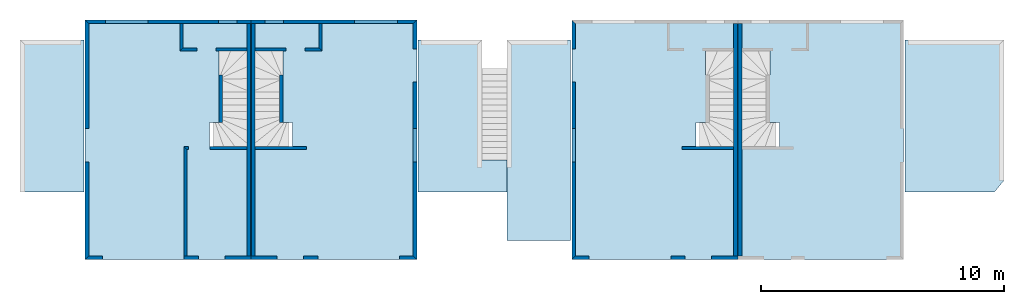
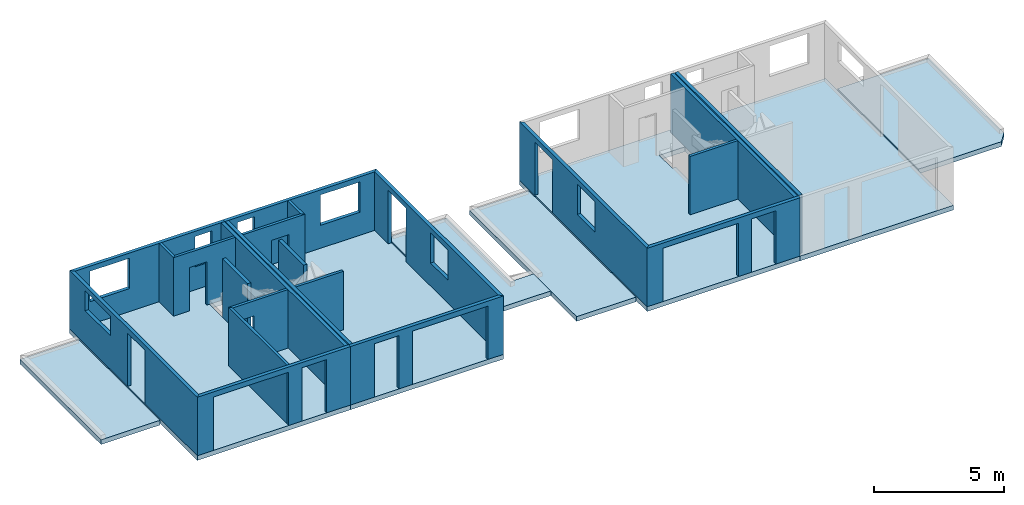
# One storey, part 1 of 8: 22 walls, 8 slabs, 23 openings.
"""IFC2X3 building model written with IfcOpenShell, lengths in metres."""

from ifc_helpers import new_model, entity, si_unit, converted_unit, money_unit, direction, frame, origin_with_axes, origin_2d_with_axis, place, context, subcontext, project, spatial, polyline, rectangle, outline, extrude, material, layer, layer_set, layer_usage, type_object, element, save


model = new_model("IFC2X3")

# Units and contexts
model_context = context("Model", 3, precision=1e-05, world=origin_with_axes(), true_north=direction((0.0, 1.0)))
body_context = subcontext(model_context, "Body", "Model", "MODEL_VIEW")
ifc_project = project(units=[si_unit("LENGTHUNIT", "METRE"), si_unit("AREAUNIT", "SQUARE_METRE"), si_unit("VOLUMEUNIT", "CUBIC_METRE"), converted_unit("PLANEANGLEUNIT", "DEGREE", entity("IfcPlaneAngleMeasure", 0.0174532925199), si_unit("PLANEANGLEUNIT", "RADIAN"), dimensions=[0, 0, 0, 0, 0, 0, 0]), si_unit("SOLIDANGLEUNIT", "STERADIAN"), money_unit("EUR"), si_unit("TIMEUNIT", "SECOND"), si_unit("MASSUNIT", "GRAM"), si_unit("THERMODYNAMICTEMPERATUREUNIT", "DEGREE_CELSIUS"), si_unit("LUMINOUSINTENSITYUNIT", "LUMEN")], contexts=[model_context])

# Site, building, storey
site_placement = place(None, origin_with_axes())
site = spatial("IfcSite", under=ifc_project, at=site_placement, Name="Gelände", CompositionType="ELEMENT")
building_placement = place(site_placement, origin_with_axes())
building = spatial("IfcBuilding", under=site, at=building_placement, Name="Gebäude", CompositionType="ELEMENT")
storey_placement = place(building_placement, origin_with_axes())
storey = spatial("IfcBuildingStorey", under=building, at=storey_placement, Name="Erdgeschoss", CompositionType="ELEMENT", Elevation=0.0)

# Slab, opening
ifc_material_1 = material(Name="Beton, Stahlbeton")
ifc_layer_1 = layer(ifc_material_1, 0.22, ventilated="UNKNOWN")
ifc_layer_set_1 = layer_set([ifc_layer_1], Name="Beton, Stahlbeton 0.22")
ifc_layer_usage_1 = layer_usage(ifc_layer_set_1, "AXIS3", "NEGATIVE", 0.22)
slab_type = type_object("IfcSlabType", Name="Beton, Stahlbeton 220", PredefinedType="FLOOR")
slab_1_placement = place(storey_placement, frame((5.5340174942, 2.25779407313, 0.0), z_axis=(0.0, 0.0, 1.0), x_axis=(1.0, 0.0, 0.0)))
slab_1 = element("IfcSlab", 1, at=slab_1_placement, inside=storey, type_object=slab_type, material=ifc_layer_usage_1, Name="Bodenplatte A", PredefinedType="FLOOR", context=body_context, shape_type="SweptSolid", body=[
    extrude(outline(polyline([(0.0, 0.0), (0.0, -9.8500000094), (6.82000011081, -9.8500000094), (6.82000011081, 0.0), (0.0, 0.0)])), frame((0.0, 0.0, -0.22), z_axis=(0.0, 0.0, 1.0), x_axis=(1.0, 0.0, 0.0)), (0.0, 0.0, 1.0), 0.22),
])
opening_1_placement = place(slab_1_placement, origin_with_axes())
element("IfcOpeningElement", 2, at=opening_1_placement, cuts=slab_1, Name="Slab Opening", context=body_context, shape_type="SweptSolid", body=[
    extrude(outline(polyline([(6.64593905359, -1.2700000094), (5.50000005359, -1.2700000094), (5.50000005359, -2.2700000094), (5.64947005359, -2.2700000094), (5.64947005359, -4.2100000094), (5.11079605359, -4.2100000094), (5.11079605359, -5.2100000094), (6.65000005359, -5.2100000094), (6.64593905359, -1.2700000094)])), frame((0.0, 0.0, -0.22), z_axis=(0.0, 0.0, 1.0), x_axis=(1.0, 0.0, 0.0)), (0.0, 0.0, 1.0), 0.22),
])

# Slab
ifc_layer_usage_2 = layer_usage(ifc_layer_set_1, "AXIS3", "NEGATIVE", 0.22)
slab_2_placement = place(storey_placement, frame((5.4840174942, -4.81220592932, 0.0), z_axis=(0.0, 0.0, 1.0), x_axis=(1.0, 0.0, 0.0)))
element("IfcSlab", 3, at=slab_2_placement, inside=storey, type_object=slab_type, material=ifc_layer_usage_2, Name="Bodenplatte A", PredefinedType="FLOOR", context=body_context, shape_type="SweptSolid", body=[
    extrude(outline(polyline([(0.0, 0.0), (0.0, 6.24999998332), (-2.62996168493, 6.24999998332), (-2.62996168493, 9.73579199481e-08), (0.0, 0.0)])), frame((0.0, 0.0, -0.22), z_axis=(0.0, 0.0, 1.0), x_axis=(1.0, 0.0, 0.0)), (0.0, 0.0, 1.0), 0.22),
])

# Slab, opening
ifc_layer_usage_3 = layer_usage(ifc_layer_set_1, "AXIS3", "NEGATIVE", 0.22)
slab_3_placement = place(storey_placement, frame((19.1740176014, 2.25779407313, 0.0), z_axis=(0.0, 0.0, 1.0), x_axis=(1.0, 0.0, 0.0)))
slab_3 = element("IfcSlab", 4, at=slab_3_placement, inside=storey, type_object=slab_type, material=ifc_layer_usage_3, Name="Bodenplatte B", PredefinedType="FLOOR", context=body_context, shape_type="SweptSolid", body=[
    extrude(outline(polyline([(0.0, 0.0), (-6.82000011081, 0.0), (-6.82000011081, -9.8500000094), (0.0, -9.8500000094), (0.0, 0.0)])), frame((0.0, 0.0, -0.22), z_axis=(0.0, 0.0, 1.0), x_axis=(1.0, 0.0, 0.0)), (0.0, 0.0, 1.0), 0.22),
])
opening_2_placement = place(slab_3_placement, origin_with_axes())
element("IfcOpeningElement", 5, at=opening_2_placement, cuts=slab_3, Name="Slab Opening", context=body_context, shape_type="SweptSolid", body=[
    extrude(outline(polyline([(-6.64593905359, -1.2700000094), (-6.65000005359, -5.2100000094), (-5.11079605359, -5.2100000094), (-5.11079605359, -4.2100000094), (-5.64947005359, -4.2100000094), (-5.64947005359, -2.2700000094), (-5.50000005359, -2.2700000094), (-5.50000005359, -1.2700000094), (-6.64593905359, -1.2700000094)])), frame((0.0, 0.0, -0.22), z_axis=(0.0, 0.0, 1.0), x_axis=(1.0, 0.0, 0.0)), (0.0, 0.0, 1.0), 0.22),
])

# Slab
ifc_layer_usage_4 = layer_usage(ifc_layer_set_1, "AXIS3", "NEGATIVE", 0.22)
slab_4_placement = place(storey_placement, frame((19.2240176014, 1.437794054, 0.0), z_axis=(0.0, 0.0, 1.0), x_axis=(1.0, 0.0, 0.0)))
element("IfcSlab", 6, at=slab_4_placement, inside=storey, type_object=slab_type, material=ifc_layer_usage_4, Name="Bodenplatte B", PredefinedType="FLOOR", context=body_context, shape_type="SweptSolid", body=[
    extrude(outline(polyline([(0.0, 0.0), (0.0, -6.24999998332), (3.64996169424, -6.24999989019), (3.64996169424, -4.930000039), (2.62996171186, -4.930000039), (2.62996171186, 0.0), (0.0, 0.0)])), frame((0.0, 0.0, -0.22), z_axis=(0.0, 0.0, 1.0), x_axis=(1.0, 0.0, 0.0)), (0.0, 0.0, 1.0), 0.22),
])

# Slab, opening
ifc_layer_usage_5 = layer_usage(ifc_layer_set_1, "AXIS3", "NEGATIVE", 0.22)
slab_5_placement = place(storey_placement, frame((39.1939410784, 2.25779407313, 0.0), z_axis=(0.0, 0.0, 1.0), x_axis=(1.0, 0.0, 0.0)))
slab_5 = element("IfcSlab", 7, at=slab_5_placement, inside=storey, type_object=slab_type, material=ifc_layer_usage_5, Name="Bodenplatte D", PredefinedType="FLOOR", context=body_context, shape_type="SweptSolid", body=[
    extrude(outline(polyline([(0.0, 0.0), (-6.82000011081, 0.0), (-6.82000011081, -9.8500000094), (0.0, -9.8500000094), (0.0, 0.0)])), frame((0.0, 0.0, -0.22), z_axis=(0.0, 0.0, 1.0), x_axis=(1.0, 0.0, 0.0)), (0.0, 0.0, 1.0), 0.22),
])
opening_3_placement = place(slab_5_placement, origin_with_axes())
element("IfcOpeningElement", 8, at=opening_3_placement, cuts=slab_5, Name="Slab Opening", context=body_context, shape_type="SweptSolid", body=[
    extrude(outline(polyline([(-6.64593905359, -1.2700000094), (-6.65000005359, -5.2100000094), (-5.11079605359, -5.2100000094), (-5.11079605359, -4.2100000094), (-5.64947005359, -4.2100000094), (-5.64947005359, -2.2700000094), (-5.50000005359, -2.2700000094), (-5.50000005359, -1.2700000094), (-6.64593905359, -1.2700000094)])), frame((0.0, 0.0, -0.22), z_axis=(0.0, 0.0, 1.0), x_axis=(1.0, 0.0, 0.0)), (0.0, 0.0, 1.0), 0.22),
])

# Slab
ifc_layer_usage_6 = layer_usage(ifc_layer_set_1, "AXIS3", "NEGATIVE", 0.22)
slab_6_placement = place(storey_placement, frame((39.2439410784, -4.81220588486, 0.0), z_axis=(0.0, 0.0, 1.0), x_axis=(1.0, 0.0, 0.0)))
element("IfcSlab", 9, at=slab_6_placement, inside=storey, type_object=slab_type, material=ifc_layer_usage_6, Name="Bodenplatte D", PredefinedType="FLOOR", context=body_context, shape_type="SweptSolid", body=[
    extrude(outline(polyline([(0.0, 0.0), (3.68996168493, 1.36597805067e-07), (4.07996168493, 0.475166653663), (4.07996168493, 6.2499999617), (-2.07094785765e-09, 6.24999991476), (0.0, 0.0)])), frame((0.0, 0.0, -0.22), z_axis=(0.0, 0.0, 1.0), x_axis=(1.0, 0.0, 0.0)), (0.0, 0.0, 1.0), 0.22),
])

# Slab, opening
ifc_layer_usage_7 = layer_usage(ifc_layer_set_1, "AXIS3", "NEGATIVE", 0.22)
slab_7_placement = place(storey_placement, frame((25.5539409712, 2.25779407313, 0.0), z_axis=(0.0, 0.0, 1.0), x_axis=(1.0, 0.0, 0.0)))
slab_7 = element("IfcSlab", 10, at=slab_7_placement, inside=storey, type_object=slab_type, material=ifc_layer_usage_7, Name="Decke C", PredefinedType="FLOOR", context=body_context, shape_type="SweptSolid", body=[
    extrude(outline(polyline([(0.0, 0.0), (0.0, -9.8500000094), (6.82000011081, -9.8500000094), (6.82000011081, 0.0), (0.0, 0.0)])), frame((0.0, 0.0, -0.22), z_axis=(0.0, 0.0, 1.0), x_axis=(1.0, 0.0, 0.0)), (0.0, 0.0, 1.0), 0.22),
])
opening_4_placement = place(slab_7_placement, origin_with_axes())
element("IfcOpeningElement", 11, at=opening_4_placement, cuts=slab_7, Name="Slab Opening", context=body_context, shape_type="SweptSolid", body=[
    extrude(outline(polyline([(6.64593905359, -1.2700000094), (5.50000005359, -1.2700000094), (5.50000005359, -2.2700000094), (5.64947005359, -2.2700000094), (5.64947005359, -4.2100000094), (5.11079605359, -4.2100000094), (5.11079605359, -5.2100000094), (6.65000005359, -5.2100000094), (6.64593905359, -1.2700000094)])), frame((0.0, 0.0, -0.22), z_axis=(0.0, 0.0, 1.0), x_axis=(1.0, 0.0, 0.0)), (0.0, 0.0, 1.0), 0.22),
])

# Slab
ifc_layer_usage_8 = layer_usage(ifc_layer_set_1, "AXIS3", "NEGATIVE", 0.22)
slab_8_placement = place(storey_placement, frame((25.5039409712, -6.81220600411, 0.0), z_axis=(0.0, 0.0, 1.0), x_axis=(1.0, 0.0, 0.0)))
element("IfcSlab", 12, at=slab_8_placement, inside=storey, type_object=slab_type, material=ifc_layer_usage_8, Name="Bodenplatte C", PredefinedType="FLOOR", context=body_context, shape_type="SweptSolid", body=[
    extrude(outline(polyline([(0.0, 0.0), (0.0, 8.25000005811), (-2.62996168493, 8.25000005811), (-2.62996168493, 9.73579199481e-08), (0.0, 0.0)])), frame((0.0, 0.0, -0.22), z_axis=(0.0, 0.0, 1.0), x_axis=(1.0, 0.0, 0.0)), (0.0, 0.0, 1.0), 0.22),
])

# Wall, openings
ifc_material_2 = material(Name="MW, Backstein")
ifc_layer_2 = layer(ifc_material_2, 0.15, ventilated="UNKNOWN")
ifc_layer_set_2 = layer_set([ifc_layer_2], Name="MW, Backstein 0.15")
ifc_layer_usage_9 = layer_usage(ifc_layer_set_2, "AXIS2", "NEGATIVE", 0.0)
wall_type_1 = type_object("IfcWallType", Name="MW, Backstein 150", PredefinedType="NOTDEFINED")
wall_1_placement = place(storey_placement, frame((12.3540175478, -7.59220593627, 0.0), z_axis=(0.0, 0.0, 1.0), x_axis=(-1.0, 0.0, 0.0)))
wall_1 = element("IfcWallStandardCase", 13, at=wall_1_placement, inside=storey, type_object=wall_type_1, material=ifc_layer_usage_9, Name="Aussenwand A", context=body_context, shape_type="SweptSolid", body=[
    extrude(outline(polyline([(0.0, -0.15), (6.67, -0.15), (6.82, 0.0), (0.0, 0.0), (0.0, -0.15)])), origin_with_axes(), (0.0, 0.0, 1.0), 2.75),
])
opening_5_placement = place(wall_1_placement, frame((4.43, 0.0, 0.0), z_axis=(0.0, 0.0, 1.0), x_axis=(1.0, 0.0, 0.0)))
element("IfcOpeningElement", 14, at=opening_5_placement, cuts=wall_1, Name="Fenster A", context=body_context, shape_type="SweptSolid", body=[
    extrude(rectangle(XDim=3.36, YDim=2.51, at=origin_2d_with_axis()), frame((0.0, -0.15, 1.255), z_axis=(0.0, -1.0, 0.0), x_axis=(1.0, 0.0, 0.0)), (0.0, 0.0, -1.0), 0.15),
    extrude(rectangle(XDim=3.36, YDim=2.51, at=origin_2d_with_axis()), frame((0.0, -0.15, 1.255), z_axis=(0.0, 1.0, 0.0), x_axis=(1.0, 0.0, 0.0)), (0.0, 0.0, -1.0), 0.15),
])
opening_6_placement = place(wall_1_placement, frame((1.61, 0.0, 0.0), z_axis=(0.0, 0.0, 1.0), x_axis=(1.0, 0.0, 0.0)))
element("IfcOpeningElement", 15, at=opening_6_placement, cuts=wall_1, Name="Fenster A", context=body_context, shape_type="SweptSolid", body=[
    extrude(rectangle(XDim=1.1, YDim=2.51, at=origin_2d_with_axis()), frame((0.0, -0.15, 1.255), z_axis=(0.0, -1.0, 0.0), x_axis=(1.0, 0.0, 0.0)), (0.0, 0.0, -1.0), 0.15),
    extrude(rectangle(XDim=1.1, YDim=2.51, at=origin_2d_with_axis()), frame((0.0, -0.15, 1.255), z_axis=(0.0, 1.0, 0.0), x_axis=(1.0, 0.0, 0.0)), (0.0, 0.0, -1.0), 0.15),
])

ifc_layer_usage_10 = layer_usage(ifc_layer_set_2, "AXIS2", "POSITIVE", 0.0)
wall_2_placement = place(storey_placement, frame((5.68401754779, -7.59220593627, 0.0), z_axis=(0.0, 0.0, 1.0), x_axis=(0.0, 1.0, 0.0)))
wall_2 = element("IfcWallStandardCase", 16, at=wall_2_placement, inside=storey, type_object=wall_type_1, material=ifc_layer_usage_10, Name="Aussenwand A", context=body_context, shape_type="SweptSolid", body=[
    extrude(outline(polyline([(0.15, 0.0), (9.69999998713, 0.0), (9.84999998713, 0.15), (0.0, 0.15), (0.15, 0.0)])), origin_with_axes(), (0.0, 0.0, 1.0), 2.75),
])
opening_7_placement = place(wall_2_placement, frame((7.66999998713, 0.0, 1.58), z_axis=(0.0, 0.0, 1.0), x_axis=(1.0, 0.0, 0.0)))
element("IfcOpeningElement", 17, at=opening_7_placement, cuts=wall_2, Name="Fenster A", context=body_context, shape_type="SweptSolid", body=[
    extrude(rectangle(XDim=1.96, YDim=0.93, at=origin_2d_with_axis()), frame((0.0, 0.0, 0.465), z_axis=(0.0, -1.0, 0.0), x_axis=(1.0, 0.0, 0.0)), (0.0, 0.0, -1.0), 0.15),
    extrude(rectangle(XDim=1.96, YDim=0.93, at=origin_2d_with_axis()), frame((0.0, 0.0, 0.465), z_axis=(0.0, 1.0, 0.0), x_axis=(1.0, 0.0, 0.0)), (0.0, 0.0, -1.0), 0.15),
])
opening_8_placement = place(wall_2_placement, frame((4.69999998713, 0.0, 0.0), z_axis=(0.0, 0.0, 1.0), x_axis=(1.0, 0.0, 0.0)))
element("IfcOpeningElement", 18, at=opening_8_placement, cuts=wall_2, Name="Fenster A", context=body_context, shape_type="SweptSolid", body=[
    extrude(rectangle(XDim=1.36, YDim=2.51, at=origin_2d_with_axis()), frame((0.0, 0.15, 1.255), z_axis=(0.0, 1.0, 0.0), x_axis=(1.0, 0.0, 0.0)), (0.0, 0.0, -1.0), 0.15),
    extrude(rectangle(XDim=1.36, YDim=2.51, at=origin_2d_with_axis()), frame((0.0, 0.15, 1.255), z_axis=(0.0, -1.0, 0.0), x_axis=(1.0, 0.0, 0.0)), (0.0, 0.0, -1.0), 0.15),
])

ifc_layer_usage_11 = layer_usage(ifc_layer_set_2, "AXIS2", "NEGATIVE", 0.0)
wall_3_placement = place(storey_placement, frame((5.68401754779, 2.25779405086, 0.0), z_axis=(0.0, 0.0, 1.0), x_axis=(1.0, 0.0, 0.0)))
wall_3 = element("IfcWallStandardCase", 19, at=wall_3_placement, inside=storey, type_object=wall_type_1, material=ifc_layer_usage_11, Name="Aussenwand A", context=body_context, shape_type="SweptSolid", body=[
    extrude(outline(polyline([(0.0, -0.15), (6.67, -0.15), (6.67, 0.0), (-0.15, 0.0), (0.0, -0.15)])), origin_with_axes(), (0.0, 0.0, 1.0), 2.75),
])
opening_9_placement = place(wall_3_placement, frame((5.72, 0.0, 1.08), z_axis=(0.0, 0.0, 1.0), x_axis=(1.0, 0.0, 0.0)))
element("IfcOpeningElement", 20, at=opening_9_placement, cuts=wall_3, Name="Fenster A", context=body_context, shape_type="SweptSolid", body=[
    extrude(rectangle(XDim=0.76, YDim=1.43, at=origin_2d_with_axis()), frame((0.0, -0.15, 0.715), z_axis=(0.0, -1.0, 0.0), x_axis=(1.0, 0.0, 0.0)), (0.0, 0.0, -1.0), 0.15),
    extrude(rectangle(XDim=0.76, YDim=1.43, at=origin_2d_with_axis()), frame((0.0, -0.15, 0.715), z_axis=(0.0, 1.0, 0.0), x_axis=(1.0, 0.0, 0.0)), (0.0, 0.0, -1.0), 0.15),
])
opening_10_placement = place(wall_3_placement, frame((1.56, 0.0, 1.08), z_axis=(0.0, 0.0, 1.0), x_axis=(1.0, 0.0, 0.0)))
element("IfcOpeningElement", 21, at=opening_10_placement, cuts=wall_3, Name="Fenster A", context=body_context, shape_type="SweptSolid", body=[
    extrude(rectangle(XDim=1.76, YDim=1.43, at=origin_2d_with_axis()), frame((0.0, -0.15, 0.715), z_axis=(0.0, -1.0, 0.0), x_axis=(1.0, 0.0, 0.0)), (0.0, 0.0, -1.0), 0.15),
    extrude(rectangle(XDim=1.76, YDim=1.43, at=origin_2d_with_axis()), frame((0.0, -0.15, 0.715), z_axis=(0.0, 1.0, 0.0), x_axis=(1.0, 0.0, 0.0)), (0.0, 0.0, -1.0), 0.15),
])

# Walls
ifc_layer_usage_12 = layer_usage(ifc_layer_set_2, "AXIS2", "NEGATIVE", 0.0)
wall_4_placement = place(storey_placement, frame((12.3340175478, 2.25779405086, 0.0), z_axis=(0.0, 0.0, 1.0), x_axis=(0.0, -1.0, 0.0)))
element("IfcWallStandardCase", 22, at=wall_4_placement, inside=storey, type_object=wall_type_1, material=ifc_layer_usage_12, Name="Zwischenwand A", context=body_context, shape_type="SweptSolid", body=[
    extrude(outline(polyline([(0.15, -0.15), (9.69999998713, -0.15), (9.69999998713, 0.0), (0.15, 0.0), (0.15, -0.15)])), origin_with_axes(), (0.0, 0.0, 1.0), 2.75),
])
ifc_layer_usage_13 = layer_usage(ifc_layer_set_2, "AXIS2", "NEGATIVE", 0.0)
wall_5_placement = place(storey_placement, frame((11.0340175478, -1.95220593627, 0.0), z_axis=(0.0, 0.0, 1.0), x_axis=(0.0, 1.0, 0.0)))
element("IfcWallStandardCase", 23, at=wall_5_placement, inside=storey, type_object=wall_type_1, material=ifc_layer_usage_13, Name="Innenwand A", context=body_context, shape_type="SweptSolid", body=[
    extrude(outline(polyline([(0.0, -0.15), (1.94, -0.15), (1.94, 0.0), (0.0, 0.0), (0.0, -0.15)])), origin_with_axes(), (0.0, 0.0, 1.0), 2.75),
])

# Wall, openings
ifc_layer_usage_14 = layer_usage(ifc_layer_set_2, "AXIS2", "POSITIVE", 0.0)
wall_6_placement = place(storey_placement, frame((12.3540175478, -7.59220593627, 0.0), z_axis=(0.0, 0.0, 1.0), x_axis=(1.0, 0.0, 0.0)))
wall_6 = element("IfcWallStandardCase", 24, at=wall_6_placement, inside=storey, type_object=wall_type_1, material=ifc_layer_usage_14, Name="Aussenwand B", context=body_context, shape_type="SweptSolid", body=[
    extrude(outline(polyline([(0.0, 0.0), (6.82, 0.0), (6.67, 0.15), (0.0, 0.15), (0.0, 0.0)])), origin_with_axes(), (0.0, 0.0, 1.0), 2.75),
])
opening_11_placement = place(wall_6_placement, frame((4.43, 0.0, 0.0), z_axis=(0.0, 0.0, 1.0), x_axis=(1.0, 0.0, 0.0)))
element("IfcOpeningElement", 25, at=opening_11_placement, cuts=wall_6, Name="Fenster C", context=body_context, shape_type="SweptSolid", body=[
    extrude(rectangle(XDim=3.36, YDim=2.51, at=origin_2d_with_axis()), frame((0.0, 0.15, 1.255), z_axis=(0.0, 1.0, 0.0), x_axis=(1.0, 0.0, 0.0)), (0.0, 0.0, -1.0), 0.15),
    extrude(rectangle(XDim=3.36, YDim=2.51, at=origin_2d_with_axis()), frame((0.0, 0.15, 1.255), z_axis=(0.0, -1.0, 0.0), x_axis=(1.0, 0.0, 0.0)), (0.0, 0.0, -1.0), 0.15),
])
opening_12_placement = place(wall_6_placement, frame((1.61, 0.0, 0.0), z_axis=(0.0, 0.0, 1.0), x_axis=(1.0, 0.0, 0.0)))
element("IfcOpeningElement", 26, at=opening_12_placement, cuts=wall_6, Name="Fenster C", context=body_context, shape_type="SweptSolid", body=[
    extrude(rectangle(XDim=1.1, YDim=2.51, at=origin_2d_with_axis()), frame((0.0, 0.15, 1.255), z_axis=(0.0, 1.0, 0.0), x_axis=(1.0, 0.0, 0.0)), (0.0, 0.0, -1.0), 0.15),
    extrude(rectangle(XDim=1.1, YDim=2.51, at=origin_2d_with_axis()), frame((0.0, 0.15, 1.255), z_axis=(0.0, -1.0, 0.0), x_axis=(1.0, 0.0, 0.0)), (0.0, 0.0, -1.0), 0.15),
])

ifc_layer_usage_15 = layer_usage(ifc_layer_set_2, "AXIS2", "NEGATIVE", 0.0)
wall_7_placement = place(storey_placement, frame((19.0240175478, -7.59220593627, 0.0), z_axis=(0.0, 0.0, 1.0), x_axis=(0.0, 1.0, 0.0)))
wall_7 = element("IfcWallStandardCase", 27, at=wall_7_placement, inside=storey, type_object=wall_type_1, material=ifc_layer_usage_15, Name="Aussenwand B", context=body_context, shape_type="SweptSolid", body=[
    extrude(outline(polyline([(0.0, -0.15), (9.84999998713, -0.15), (9.69999998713, 0.0), (0.15, 0.0), (0.0, -0.15)])), origin_with_axes(), (0.0, 0.0, 1.0), 2.75),
])
opening_13_placement = place(wall_7_placement, frame((7.96999998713, 0.0, 0.0), z_axis=(0.0, 0.0, 1.0), x_axis=(1.0, 0.0, 0.0)))
element("IfcOpeningElement", 28, at=opening_13_placement, cuts=wall_7, Name="Fenster C", context=body_context, shape_type="SweptSolid", body=[
    extrude(rectangle(XDim=1.36, YDim=2.51, at=origin_2d_with_axis()), frame((0.0, 0.0, 1.255), z_axis=(0.0, 1.0, 0.0), x_axis=(1.0, 0.0, 0.0)), (0.0, 0.0, -1.0), 0.15),
    extrude(rectangle(XDim=1.36, YDim=2.51, at=origin_2d_with_axis()), frame((0.0, 0.0, 1.255), z_axis=(0.0, -1.0, 0.0), x_axis=(1.0, 0.0, 0.0)), (0.0, 0.0, -1.0), 0.15),
])
opening_14_placement = place(wall_7_placement, frame((4.69999998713, 0.0, 1.08), z_axis=(0.0, 0.0, 1.0), x_axis=(1.0, 0.0, 0.0)))
element("IfcOpeningElement", 29, at=opening_14_placement, cuts=wall_7, Name="Fenster C", context=body_context, shape_type="SweptSolid", body=[
    extrude(rectangle(XDim=1.36, YDim=1.43, at=origin_2d_with_axis()), frame((0.0, -0.15, 0.715), z_axis=(0.0, -1.0, 0.0), x_axis=(1.0, 0.0, 0.0)), (0.0, 0.0, -1.0), 0.15),
    extrude(rectangle(XDim=1.36, YDim=1.43, at=origin_2d_with_axis()), frame((0.0, -0.15, 0.715), z_axis=(0.0, 1.0, 0.0), x_axis=(1.0, 0.0, 0.0)), (0.0, 0.0, -1.0), 0.15),
])

# Walls
ifc_layer_usage_16 = layer_usage(ifc_layer_set_2, "AXIS2", "POSITIVE", 0.0)
wall_8_placement = place(storey_placement, frame((12.3740175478, 2.25779405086, 0.0), z_axis=(0.0, 0.0, 1.0), x_axis=(0.0, -1.0, 0.0)))
element("IfcWallStandardCase", 30, at=wall_8_placement, inside=storey, type_object=wall_type_1, material=ifc_layer_usage_16, Name="Zwischenwand B", context=body_context, shape_type="SweptSolid", body=[
    extrude(outline(polyline([(0.15, 0.0), (9.69999998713, 0.0), (9.69999998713, 0.15), (0.15, 0.15), (0.15, 0.0)])), origin_with_axes(), (0.0, 0.0, 1.0), 2.75),
])
ifc_layer_usage_17 = layer_usage(ifc_layer_set_2, "AXIS2", "POSITIVE", 0.0)
wall_9_placement = place(storey_placement, frame((13.6740175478, -1.95220593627, 0.0), z_axis=(0.0, 0.0, 1.0), x_axis=(0.0, 1.0, 0.0)))
element("IfcWallStandardCase", 31, at=wall_9_placement, inside=storey, type_object=wall_type_1, material=ifc_layer_usage_17, Name="Innenwand C", context=body_context, shape_type="SweptSolid", body=[
    extrude(outline(polyline([(0.0, 0.0), (1.94, 0.0), (1.94, 0.15), (0.0, 0.15), (0.0, 0.0)])), origin_with_axes(), (0.0, 0.0, 1.0), 2.75),
])

# Wall, openings
ifc_layer_usage_18 = layer_usage(ifc_layer_set_2, "AXIS2", "POSITIVE", 0.0)
wall_10_placement = place(storey_placement, frame((19.0240175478, 2.25779405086, 0.0), z_axis=(0.0, 0.0, 1.0), x_axis=(-1.0, 0.0, 0.0)))
wall_10 = element("IfcWallStandardCase", 32, at=wall_10_placement, inside=storey, type_object=wall_type_1, material=ifc_layer_usage_18, Name="Aussenwand B", context=body_context, shape_type="SweptSolid", body=[
    extrude(outline(polyline([(-0.15, 0.0), (6.67, 0.0), (6.67, 0.15), (0.0, 0.15), (-0.15, 0.0)])), origin_with_axes(), (0.0, 0.0, 1.0), 2.75),
])
opening_15_placement = place(wall_10_placement, frame((5.72, 0.0, 1.08), z_axis=(0.0, 0.0, 1.0), x_axis=(1.0, 0.0, 0.0)))
element("IfcOpeningElement", 33, at=opening_15_placement, cuts=wall_10, Name="Fenster C", context=body_context, shape_type="SweptSolid", body=[
    extrude(rectangle(XDim=0.76, YDim=1.43, at=origin_2d_with_axis()), frame((0.0, 0.15, 0.715), z_axis=(0.0, 1.0, 0.0), x_axis=(1.0, 0.0, 0.0)), (0.0, 0.0, -1.0), 0.15),
    extrude(rectangle(XDim=0.76, YDim=1.43, at=origin_2d_with_axis()), frame((0.0, 0.15, 0.715), z_axis=(0.0, -1.0, 0.0), x_axis=(1.0, 0.0, 0.0)), (0.0, 0.0, -1.0), 0.15),
])
opening_16_placement = place(wall_10_placement, frame((1.53, 0.0, 1.08), z_axis=(0.0, 0.0, 1.0), x_axis=(1.0, 0.0, 0.0)))
element("IfcOpeningElement", 34, at=opening_16_placement, cuts=wall_10, Name="Fenster C", context=body_context, shape_type="SweptSolid", body=[
    extrude(rectangle(XDim=1.76, YDim=1.43, at=origin_2d_with_axis()), frame((0.0, 0.15, 0.715), z_axis=(0.0, 1.0, 0.0), x_axis=(1.0, 0.0, 0.0)), (0.0, 0.0, -1.0), 0.15),
    extrude(rectangle(XDim=1.76, YDim=1.43, at=origin_2d_with_axis()), frame((0.0, 0.15, 0.715), z_axis=(0.0, -1.0, 0.0), x_axis=(1.0, 0.0, 0.0)), (0.0, 0.0, -1.0), 0.15),
])

# Wall
ifc_layer_usage_19 = layer_usage(ifc_layer_set_2, "AXIS2", "POSITIVE", 0.0)
wall_11_placement = place(storey_placement, frame((32.3939410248, 2.25779405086, 0.0), z_axis=(0.0, 0.0, 1.0), x_axis=(0.0, -1.0, 0.0)))
element("IfcWallStandardCase", 35, at=wall_11_placement, inside=storey, type_object=wall_type_1, material=ifc_layer_usage_19, Name="Wand-004", context=body_context, shape_type="SweptSolid", body=[
    extrude(outline(polyline([(0.15, 0.0), (9.69999998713, 0.0), (9.69999998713, 0.15), (0.15, 0.15), (0.15, 0.0)])), origin_with_axes(), (0.0, 0.0, 1.0), 2.75),
])

# Wall, openings
ifc_layer_usage_20 = layer_usage(ifc_layer_set_2, "AXIS2", "NEGATIVE", 0.0)
wall_12_placement = place(storey_placement, frame((32.3739410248, -7.59220593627, 0.0), z_axis=(0.0, 0.0, 1.0), x_axis=(-1.0, 0.0, 0.0)))
wall_12 = element("IfcWallStandardCase", 36, at=wall_12_placement, inside=storey, type_object=wall_type_1, material=ifc_layer_usage_20, Name="Aussenwand C", context=body_context, shape_type="SweptSolid", body=[
    extrude(outline(polyline([(0.0, -0.15), (6.67, -0.15), (6.82, 0.0), (0.0, 0.0), (0.0, -0.15)])), origin_with_axes(), (0.0, 0.0, 1.0), 2.75),
])
opening_17_placement = place(wall_12_placement, frame((4.43, 0.0, 0.0), z_axis=(0.0, 0.0, 1.0), x_axis=(1.0, 0.0, 0.0)))
element("IfcOpeningElement", 37, at=opening_17_placement, cuts=wall_12, Name="Fenster C", context=body_context, shape_type="SweptSolid", body=[
    extrude(rectangle(XDim=3.36, YDim=2.51, at=origin_2d_with_axis()), frame((0.0, -0.15, 1.255), z_axis=(0.0, -1.0, 0.0), x_axis=(1.0, 0.0, 0.0)), (0.0, 0.0, -1.0), 0.15),
    extrude(rectangle(XDim=3.36, YDim=2.51, at=origin_2d_with_axis()), frame((0.0, -0.15, 1.255), z_axis=(0.0, 1.0, 0.0), x_axis=(1.0, 0.0, 0.0)), (0.0, 0.0, -1.0), 0.15),
])
opening_18_placement = place(wall_12_placement, frame((1.63, 0.0, 0.0), z_axis=(0.0, 0.0, 1.0), x_axis=(1.0, 0.0, 0.0)))
element("IfcOpeningElement", 38, at=opening_18_placement, cuts=wall_12, Name="Fenster C", context=body_context, shape_type="SweptSolid", body=[
    extrude(rectangle(XDim=1.1, YDim=2.51, at=origin_2d_with_axis()), frame((0.0, -0.15, 1.255), z_axis=(0.0, -1.0, 0.0), x_axis=(1.0, 0.0, 0.0)), (0.0, 0.0, -1.0), 0.15),
    extrude(rectangle(XDim=1.1, YDim=2.51, at=origin_2d_with_axis()), frame((0.0, -0.15, 1.255), z_axis=(0.0, 1.0, 0.0), x_axis=(1.0, 0.0, 0.0)), (0.0, 0.0, -1.0), 0.15),
])

ifc_layer_usage_21 = layer_usage(ifc_layer_set_2, "AXIS2", "POSITIVE", 0.0)
wall_13_placement = place(storey_placement, frame((25.7039410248, -7.59220593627, 0.0), z_axis=(0.0, 0.0, 1.0), x_axis=(0.0, 1.0, 0.0)))
wall_13 = element("IfcWallStandardCase", 39, at=wall_13_placement, inside=storey, type_object=wall_type_1, material=ifc_layer_usage_21, Name="Aussenwand C", context=body_context, shape_type="SweptSolid", body=[
    extrude(outline(polyline([(0.15, 0.0), (9.69999998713, 0.0), (9.84999998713, 0.15), (0.0, 0.15), (0.15, 0.0)])), origin_with_axes(), (0.0, 0.0, 1.0), 2.75),
])
opening_19_placement = place(wall_13_placement, frame((7.96999998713, 0.0, 0.0), z_axis=(0.0, 0.0, 1.0), x_axis=(1.0, 0.0, 0.0)))
element("IfcOpeningElement", 40, at=opening_19_placement, cuts=wall_13, Name="Fenster C", context=body_context, shape_type="SweptSolid", body=[
    extrude(rectangle(XDim=1.36, YDim=2.51, at=origin_2d_with_axis()), frame((0.0, 0.0, 1.255), z_axis=(0.0, -1.0, 0.0), x_axis=(1.0, 0.0, 0.0)), (0.0, 0.0, -1.0), 0.15),
    extrude(rectangle(XDim=1.36, YDim=2.51, at=origin_2d_with_axis()), frame((0.0, 0.0, 1.255), z_axis=(0.0, 1.0, 0.0), x_axis=(1.0, 0.0, 0.0)), (0.0, 0.0, -1.0), 0.15),
])
opening_20_placement = place(wall_13_placement, frame((4.69999998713, 0.0, 1.08), z_axis=(0.0, 0.0, 1.0), x_axis=(1.0, 0.0, 0.0)))
element("IfcOpeningElement", 41, at=opening_20_placement, cuts=wall_13, Name="Fenster C", context=body_context, shape_type="SweptSolid", body=[
    extrude(rectangle(XDim=1.36, YDim=1.43, at=origin_2d_with_axis()), frame((0.0, 0.15, 0.715), z_axis=(0.0, 1.0, 0.0), x_axis=(1.0, 0.0, 0.0)), (0.0, 0.0, -1.0), 0.15),
    extrude(rectangle(XDim=1.36, YDim=1.43, at=origin_2d_with_axis()), frame((0.0, 0.15, 0.715), z_axis=(0.0, -1.0, 0.0), x_axis=(1.0, 0.0, 0.0)), (0.0, 0.0, -1.0), 0.15),
])

# Walls
ifc_layer_usage_22 = layer_usage(ifc_layer_set_2, "AXIS2", "NEGATIVE", 0.0)
wall_14_placement = place(storey_placement, frame((32.3539410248, 2.25779405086, 0.0), z_axis=(0.0, 0.0, 1.0), x_axis=(0.0, -1.0, 0.0)))
element("IfcWallStandardCase", 42, at=wall_14_placement, inside=storey, type_object=wall_type_1, material=ifc_layer_usage_22, Name="Wand-004", context=body_context, shape_type="SweptSolid", body=[
    extrude(outline(polyline([(0.15, -0.15), (9.69999998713, -0.15), (9.69999998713, 0.0), (0.15, 0.0), (0.15, -0.15)])), origin_with_axes(), (0.0, 0.0, 1.0), 2.75),
])
ifc_layer_3 = layer(ifc_material_2, 0.12, ventilated="UNKNOWN")
ifc_layer_set_3 = layer_set([ifc_layer_3], Name="MW, Backstein 0.12")
ifc_layer_usage_23 = layer_usage(ifc_layer_set_3, "AXIS2", "POSITIVE", 0.0)
wall_type_2 = type_object("IfcWallType", Name="MW, Backstein 120", PredefinedType="NOTDEFINED")
wall_15_placement = place(storey_placement, frame((9.72401754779, -7.59220593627, 0.0), z_axis=(0.0, 0.0, 1.0), x_axis=(0.0, 1.0, 0.0)))
element("IfcWallStandardCase", 43, at=wall_15_placement, inside=storey, type_object=wall_type_2, material=ifc_layer_usage_23, Name="Innenwand A", context=body_context, shape_type="SweptSolid", body=[
    extrude(outline(polyline([(0.15, 0.0), (4.52, 0.0), (4.64, 0.12), (0.15, 0.12), (0.15, 0.0)])), origin_with_axes(), (0.0, 0.0, 1.0), 2.75),
])

# Wall, opening
ifc_layer_usage_24 = layer_usage(ifc_layer_set_3, "AXIS2", "NEGATIVE", 0.0)
wall_16_placement = place(storey_placement, frame((9.72401754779, -2.95220593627, 0.0), z_axis=(0.0, 0.0, 1.0), x_axis=(1.0, 0.0, 0.0)))
wall_16 = element("IfcWallStandardCase", 44, at=wall_16_placement, inside=storey, type_object=wall_type_2, material=ifc_layer_usage_24, Name="Innenwand A", context=body_context, shape_type="SweptSolid", body=[
    extrude(outline(polyline([(0.0, -0.12), (2.46, -0.12), (2.46, 0.0), (-0.12, 0.0), (0.0, -0.12)])), origin_with_axes(), (0.0, 0.0, 1.0), 2.75),
])
opening_21_placement = place(wall_16_placement, frame((0.5, 0.0, 0.0), z_axis=(0.0, 0.0, 1.0), x_axis=(1.0, 0.0, 0.0)))
element("IfcOpeningElement", 45, at=opening_21_placement, cuts=wall_16, Name="Tür A", context=body_context, shape_type="SweptSolid", body=[
    extrude(rectangle(XDim=0.88, YDim=2.04, at=origin_2d_with_axis()), frame((0.0, -0.12, 1.02), z_axis=(0.0, 1.0, 0.0), x_axis=(1.0, 0.0, 0.0)), (0.0, 0.0, -1.0), 0.12),
    extrude(rectangle(XDim=0.88, YDim=2.04, at=origin_2d_with_axis()), frame((0.0, -0.12, 1.02), z_axis=(0.0, -1.0, 0.0), x_axis=(1.0, 0.0, 0.0)), (0.0, 0.0, -1.0), 0.12),
])

ifc_layer_usage_25 = layer_usage(ifc_layer_set_3, "AXIS2", "NEGATIVE", 0.0)
wall_17_placement = place(storey_placement, frame((12.3340175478, 0.987794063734, 0.0), z_axis=(0.0, 0.0, 1.0), x_axis=(-1.0, 0.0, 0.0)))
wall_17 = element("IfcWallStandardCase", 46, at=wall_17_placement, inside=storey, type_object=wall_type_2, material=ifc_layer_usage_25, Name="Innenwand A", context=body_context, shape_type="SweptSolid", body=[
    extrude(outline(polyline([(0.15, -0.12), (2.78, -0.12), (2.9, 0.0), (0.15, 0.0), (0.15, -0.12)])), origin_with_axes(), (0.0, 0.0, 1.0), 2.75),
])
opening_22_placement = place(wall_17_placement, frame((1.81, 0.0, 0.0), z_axis=(0.0, 0.0, 1.0), x_axis=(1.0, 0.0, 0.0)))
element("IfcOpeningElement", 47, at=opening_22_placement, cuts=wall_17, Name="Tür A", context=body_context, shape_type="SweptSolid", body=[
    extrude(rectangle(XDim=0.78, YDim=2.04, at=origin_2d_with_axis()), frame((0.0, -0.12, 1.02), z_axis=(0.0, 1.0, 0.0), x_axis=(1.0, 0.0, 0.0)), (0.0, 0.0, -1.0), 0.12),
    extrude(rectangle(XDim=0.78, YDim=2.04, at=origin_2d_with_axis()), frame((0.0, -0.12, 1.02), z_axis=(0.0, -1.0, 0.0), x_axis=(1.0, 0.0, 0.0)), (0.0, 0.0, -1.0), 0.12),
])

# Walls
ifc_layer_usage_26 = layer_usage(ifc_layer_set_3, "AXIS2", "POSITIVE", 0.0)
wall_18_placement = place(storey_placement, frame((9.55401754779, 0.987794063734, 0.0), z_axis=(0.0, 0.0, 1.0), x_axis=(0.0, 1.0, 0.0)))
element("IfcWallStandardCase", 48, at=wall_18_placement, inside=storey, type_object=wall_type_2, material=ifc_layer_usage_26, Name="Innenwand A", context=body_context, shape_type="SweptSolid", body=[
    extrude(outline(polyline([(0.12, 0.0), (1.11999998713, 0.0), (1.11999998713, 0.12), (0.0, 0.12), (0.12, 0.0)])), origin_with_axes(), (0.0, 0.0, 1.0), 2.75),
])
ifc_layer_usage_27 = layer_usage(ifc_layer_set_3, "AXIS2", "POSITIVE", 0.0)
wall_19_placement = place(storey_placement, frame((14.6440175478, -2.95220593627, 0.0), z_axis=(0.0, 0.0, 1.0), x_axis=(-1.0, 0.0, 0.0)))
element("IfcWallStandardCase", 49, at=wall_19_placement, inside=storey, type_object=wall_type_2, material=ifc_layer_usage_27, Name="Innenwand C", context=body_context, shape_type="SweptSolid", body=[
    extrude(outline(polyline([(0.0, 0.0), (2.12, 0.0), (2.12, 0.12), (0.0, 0.12), (0.0, 0.0)])), origin_with_axes(), (0.0, 0.0, 1.0), 2.75),
])

# Wall, opening
ifc_layer_usage_28 = layer_usage(ifc_layer_set_3, "AXIS2", "POSITIVE", 0.0)
wall_20_placement = place(storey_placement, frame((12.3740175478, 0.987794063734, 0.0), z_axis=(0.0, 0.0, 1.0), x_axis=(1.0, 0.0, 0.0)))
wall_20 = element("IfcWallStandardCase", 50, at=wall_20_placement, inside=storey, type_object=wall_type_2, material=ifc_layer_usage_28, Name="Innenwand C", context=body_context, shape_type="SweptSolid", body=[
    extrude(outline(polyline([(0.15, 0.0), (2.9, 0.0), (2.78, 0.12), (0.15, 0.12), (0.15, 0.0)])), origin_with_axes(), (0.0, 0.0, 1.0), 2.75),
])
opening_23_placement = place(wall_20_placement, frame((1.81, 0.0, 0.0), z_axis=(0.0, 0.0, 1.0), x_axis=(1.0, 0.0, 0.0)))
element("IfcOpeningElement", 51, at=opening_23_placement, cuts=wall_20, Name="Tür B", context=body_context, shape_type="SweptSolid", body=[
    extrude(rectangle(XDim=0.78, YDim=2.04, at=origin_2d_with_axis()), frame((0.0, 0.12, 1.02), z_axis=(0.0, -1.0, 0.0), x_axis=(1.0, 0.0, 0.0)), (0.0, 0.0, -1.0), 0.12),
    extrude(rectangle(XDim=0.78, YDim=2.04, at=origin_2d_with_axis()), frame((0.0, 0.12, 1.02), z_axis=(0.0, 1.0, 0.0), x_axis=(1.0, 0.0, 0.0)), (0.0, 0.0, -1.0), 0.12),
])

# Walls
ifc_layer_usage_29 = layer_usage(ifc_layer_set_3, "AXIS2", "NEGATIVE", 0.0)
wall_21_placement = place(storey_placement, frame((15.1540175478, 0.987794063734, 0.0), z_axis=(0.0, 0.0, 1.0), x_axis=(0.0, 1.0, 0.0)))
element("IfcWallStandardCase", 52, at=wall_21_placement, inside=storey, type_object=wall_type_2, material=ifc_layer_usage_29, Name="Innenwand C", context=body_context, shape_type="SweptSolid", body=[
    extrude(outline(polyline([(0.0, -0.12), (1.11999998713, -0.12), (1.11999998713, 0.0), (0.12, 0.0), (0.0, -0.12)])), origin_with_axes(), (0.0, 0.0, 1.0), 2.75),
])
ifc_layer_usage_30 = layer_usage(ifc_layer_set_3, "AXIS2", "NEGATIVE", 0.0)
wall_22_placement = place(storey_placement, frame((30.0839410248, -2.95220593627, 0.0), z_axis=(0.0, 0.0, 1.0), x_axis=(1.0, 0.0, 0.0)))
element("IfcWallStandardCase", 53, at=wall_22_placement, inside=storey, type_object=wall_type_2, material=ifc_layer_usage_30, Name="Innenwand C", context=body_context, shape_type="SweptSolid", body=[
    extrude(outline(polyline([(0.0, -0.12), (2.12, -0.12), (2.12, 0.0), (0.0, 0.0), (0.0, -0.12)])), origin_with_axes(), (0.0, 0.0, 1.0), 2.75),
])

save(model, "model.ifc")
